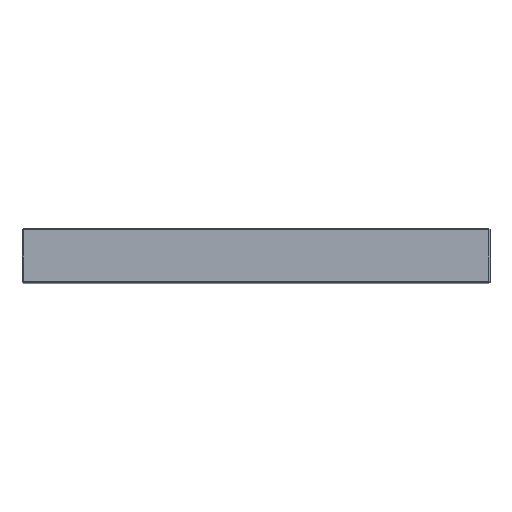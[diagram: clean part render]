
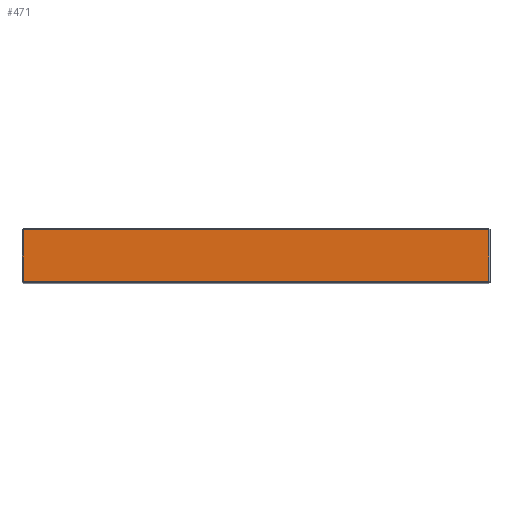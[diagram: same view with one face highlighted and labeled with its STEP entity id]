
A CAD part, top view. The second image highlights one B-rep face of the part: STEP entity #471.
In plain terms, the highlighted planar face has unit normal (0, 0, 1).
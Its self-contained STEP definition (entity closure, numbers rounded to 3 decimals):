
#8 = VERTEX_POINT ( 'NONE', #275 ) ;
#113 = EDGE_LOOP ( 'NONE', ( #1633, #501, #1717, #979 ) ) ;
#177 = VECTOR ( 'NONE', #772, 1000. ) ;
#254 = VERTEX_POINT ( 'NONE', #1653 ) ;
#275 = CARTESIAN_POINT ( 'NONE',  ( 197., 1., 248. ) ) ;
#294 = LINE ( 'NONE', #1111, #1784 ) ;
#366 = EDGE_CURVE ( 'NONE', #254, #1281, #1822, .T. ) ;
#439 = EDGE_CURVE ( 'NONE', #1281, #1638, #1198, .T. ) ;
#471 = ADVANCED_FACE ( 'NONE', ( #1112 ), #1873, .F. ) ;
#501 = ORIENTED_EDGE ( 'NONE', *, *, #439, .T. ) ;
#509 = EDGE_CURVE ( 'NONE', #1638, #8, #1311, .T. ) ;
#541 = EDGE_CURVE ( 'NONE', #8, #254, #294, .T. ) ;
#768 = CARTESIAN_POINT ( 'NONE',  ( -197., 45., 248. ) ) ;
#772 = DIRECTION ( 'NONE',  ( 1., 0., 0. ) ) ;
#787 = CARTESIAN_POINT ( 'NONE',  ( 198., 1., 248. ) ) ;
#979 = ORIENTED_EDGE ( 'NONE', *, *, #541, .T. ) ;
#1111 = CARTESIAN_POINT ( 'NONE',  ( 197., 46., 248. ) ) ;
#1112 = FACE_OUTER_BOUND ( 'NONE', #113, .T. ) ;
#1113 = CARTESIAN_POINT ( 'NONE',  ( -197., 1., 248. ) ) ;
#1119 = DIRECTION ( 'NONE',  ( 0., 1., 0. ) ) ;
#1120 = VECTOR ( 'NONE', #1261, 1000. ) ;
#1169 = CARTESIAN_POINT ( 'NONE',  ( -198., 45., 248. ) ) ;
#1198 = LINE ( 'NONE', #1280, #1285 ) ;
#1261 = DIRECTION ( 'NONE',  ( -1., 0., 0. ) ) ;
#1280 = CARTESIAN_POINT ( 'NONE',  ( -197., 46., 248. ) ) ;
#1281 = VERTEX_POINT ( 'NONE', #768 ) ;
#1285 = VECTOR ( 'NONE', #1507, 1000. ) ;
#1311 = LINE ( 'NONE', #787, #177 ) ;
#1507 = DIRECTION ( 'NONE',  ( 0., -1., 0. ) ) ;
#1539 = CARTESIAN_POINT ( 'NONE',  ( 198., 46., 248. ) ) ;
#1587 = DIRECTION ( 'NONE',  ( -1., 0., 0. ) ) ;
#1609 = DIRECTION ( 'NONE',  ( 0., 0., -1. ) ) ;
#1633 = ORIENTED_EDGE ( 'NONE', *, *, #366, .T. ) ;
#1638 = VERTEX_POINT ( 'NONE', #1113 ) ;
#1648 = AXIS2_PLACEMENT_3D ( 'NONE', #1539, #1609, #1587 ) ;
#1653 = CARTESIAN_POINT ( 'NONE',  ( 197., 45., 248. ) ) ;
#1717 = ORIENTED_EDGE ( 'NONE', *, *, #509, .T. ) ;
#1784 = VECTOR ( 'NONE', #1119, 1000. ) ;
#1822 = LINE ( 'NONE', #1169, #1120 ) ;
#1873 = PLANE ( 'NONE',  #1648 ) ;
